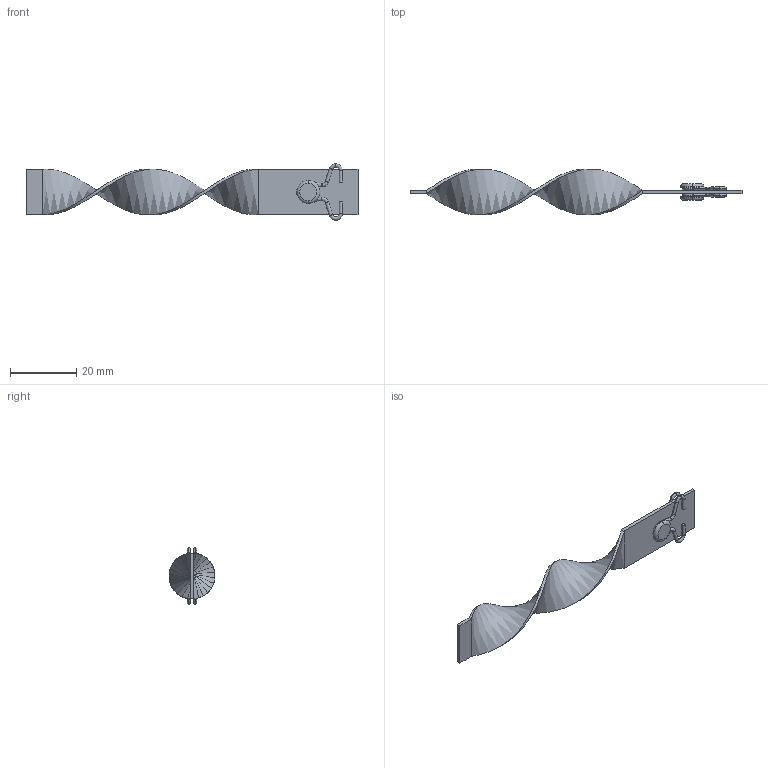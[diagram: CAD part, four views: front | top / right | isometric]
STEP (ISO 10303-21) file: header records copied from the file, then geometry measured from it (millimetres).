
FILE_DESCRIPTION (( 'STEP AP203' ), '1' );
FILE_NAME ('RLAS-14x100.STEP', '2016-02-11T16:26:13', ( 'Balzi' ), ( '' ), 'SwSTEP 2.0', 'SolidWorks 2015', '' );
FILE_SCHEMA (( 'CONFIG_CONTROL_DESIGN' ));
Length unit declared in the file: millimetre
Products named in the file (1): RLAS-14x100
Bounding box: 100 x 13.83 x 16.99 mm (x, y, z)
Volume: 1506.4 mm3; surface area: 3559.1 mm2
Topology: 5 solids, 5 shells, 92 faces, 178 edges, 96 vertices
Faces by surface type: torus 40, cylinder 30, plane 18, bspline 4
Entity records: 3087 total; most frequent: CARTESIAN_POINT 1091, DIRECTION 472, ORIENTED_EDGE 356, AXIS2_PLACEMENT_3D 209, EDGE_CURVE 178, CIRCLE 120, VERTEX_POINT 96, EDGE_LOOP 94
